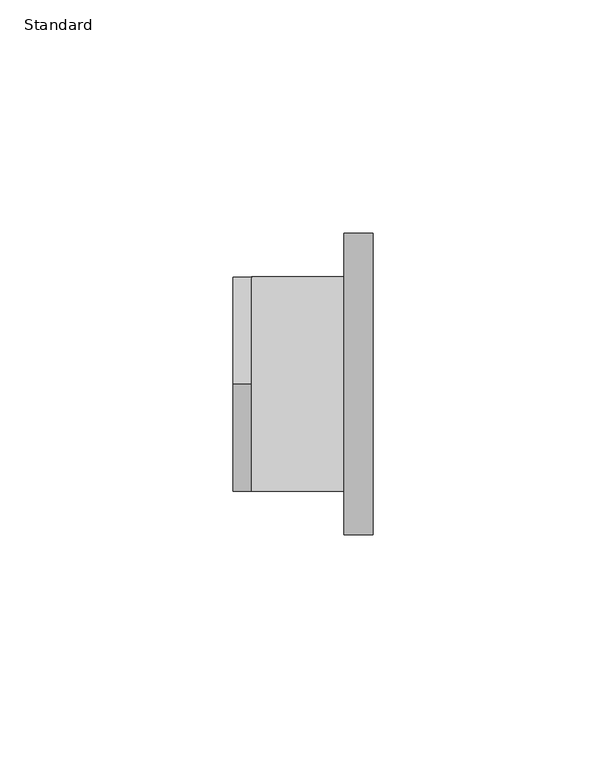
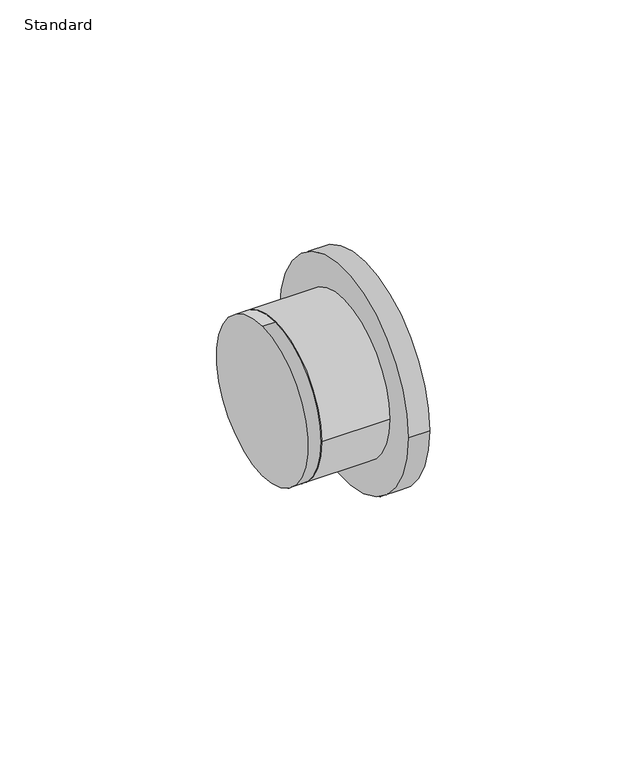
"""IFC4 building model written with IfcOpenShell, lengths in millimetres: pipe fitting geometry, Reducion Bushing_Lubrizol_CPVC_FlowGuard_MX : Standard."""

from ifc_helpers import new_model, si_unit, point, frame, origin, origin_2d, place, context, project, spatial, circle_curve, trimmed, segment, composite_curve, outline, extrude, source, transform, mapped, element, save


def standard_0e5dedbd(model_context):
    return source(origin(), model_context, "Body", "SweptSolid", [
        extrude(outline(composite_curve([segment(trimmed(circle_curve(origin_2d(), 22.99), [point((-22.99, 0.0))], [point((22.99, 0.0))], False, "CARTESIAN"), True, "CONTINUOUS"), segment(trimmed(circle_curve(origin_2d(), 22.99), [point((22.99, 0.0))], [point((-22.99, 0.0))], False, "CARTESIAN"), True, "CONTINUOUS")], self_intersect=False)), frame((4.0, 0.0, 0.0), z_axis=(1.0, 0.0, 0.0), x_axis=(0.0, 1.0, 0.0)), (0.0, 0.0, 1.0), 19.782),
        extrude(outline(composite_curve([segment(trimmed(circle_curve(origin_2d(), 32.35), [point((-32.35, 0.0))], [point((32.35, 0.0))], False, "CARTESIAN"), True, "CONTINUOUS"), segment(trimmed(circle_curve(origin_2d(), 32.35), [point((32.35, 0.0))], [point((-32.35, 0.0))], False, "CARTESIAN"), True, "CONTINUOUS")], self_intersect=False)), frame((23.782, 0.0, 0.0), z_axis=(1.0, 0.0, 0.0), x_axis=(0.0, 1.0, 0.0)), (0.0, 0.0, 1.0), 6.25),
        extrude(outline(composite_curve([segment(trimmed(circle_curve(origin_2d(), 22.99), [point((0.0, 22.99))], [point((0.0, -22.99))], False, "CARTESIAN"), True, "CONTINUOUS"), segment(trimmed(circle_curve(origin_2d(), 22.99), [point((0.0, -22.99))], [point((0.0, 22.99))], False, "CARTESIAN"), True, "CONTINUOUS")], self_intersect=False)), frame((0.0, 0.0, 0.0), z_axis=(1.0, 0.0, 0.0), x_axis=(0.0, 1.0, 0.0)), (0.0, 0.0, 1.0), 4.0),
    ])


if __name__ == "__main__":
    model = new_model("IFC4")
    model_context = context("Model", 3, world=origin())
    ifc_project = project(units=[si_unit("LENGTHUNIT", "METRE", prefix="MILLI")], contexts=[model_context])
    site = spatial("IfcSite", under=ifc_project)
    building = spatial("IfcBuilding", under=site)
    placement = place(None, origin())
    standard_shape = standard_0e5dedbd(model_context)
    element("IfcPipeFitting", 1, ObjectType="Reducion Bushing_Lubrizol_CPVC_FlowGuard_MX : Standard", at=placement, inside=building, context=model_context, shape_type="MappedRepresentation", body=[
        mapped(standard_shape, transform((0.0, 0.0, 0.0), x_axis=(1.0, 0.0, 0.0), y_axis=(0.0, 1.0, 0.0), z_axis=(0.0, 0.0, 1.0))),
    ])
    save(model, "model.ifc")
